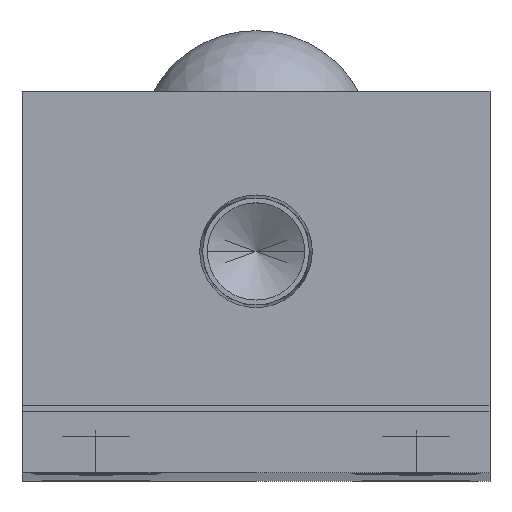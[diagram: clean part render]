
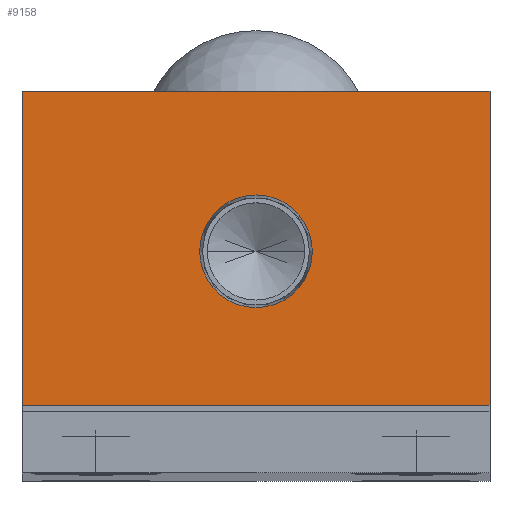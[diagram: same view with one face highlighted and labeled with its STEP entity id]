
A CAD part, top view. The second image highlights one B-rep face of the part: STEP entity #9158.
In plain terms, the highlighted planar face has unit normal (0, 0, 1).
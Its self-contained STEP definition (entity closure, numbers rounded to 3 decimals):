
#215 = DIRECTION ( 'NONE',  ( 1., 0., 0. ) ) ;
#546 = AXIS2_PLACEMENT_3D ( 'NONE', #10491, #5330, #215 ) ;
#782 = LINE ( 'NONE', #2322, #4780 ) ;
#796 = ORIENTED_EDGE ( 'NONE', *, *, #2638, .F. ) ;
#935 = VERTEX_POINT ( 'NONE', #7694 ) ;
#1225 = LINE ( 'NONE', #10427, #3520 ) ;
#1341 = ORIENTED_EDGE ( 'NONE', *, *, #5292, .T. ) ;
#1744 = ORIENTED_EDGE ( 'NONE', *, *, #7580, .T. ) ;
#1791 = VERTEX_POINT ( 'NONE', #7621 ) ;
#1977 = LINE ( 'NONE', #10384, #4544 ) ;
#2322 = CARTESIAN_POINT ( 'NONE',  ( 19., 31., 0. ) ) ;
#2638 = EDGE_CURVE ( 'NONE', #7085, #6036, #5479, .T. ) ;
#2656 = CARTESIAN_POINT ( 'NONE',  ( 4.574, 18., 0. ) ) ;
#2736 = CARTESIAN_POINT ( 'NONE',  ( -4.574, 18., 0. ) ) ;
#2977 = DIRECTION ( 'NONE',  ( 0., 0., 1. ) ) ;
#3520 = VECTOR ( 'NONE', #7000, 1000. ) ;
#3721 = EDGE_LOOP ( 'NONE', ( #1341, #1744, #7442, #9957 ) ) ;
#3761 = EDGE_CURVE ( 'NONE', #1791, #4511, #782, .T. ) ;
#4070 = AXIS2_PLACEMENT_3D ( 'NONE', #8520, #5928, #4250 ) ;
#4216 = VECTOR ( 'NONE', #4271, 1000. ) ;
#4250 = DIRECTION ( 'NONE',  ( 1., 0., 0. ) ) ;
#4271 = DIRECTION ( 'NONE',  ( 1., 0., 0. ) ) ;
#4483 = ORIENTED_EDGE ( 'NONE', *, *, #9822, .F. ) ;
#4511 = VERTEX_POINT ( 'NONE', #6063 ) ;
#4544 = VECTOR ( 'NONE', #5233, 1000. ) ;
#4780 = VECTOR ( 'NONE', #8332, 1000. ) ;
#5233 = DIRECTION ( 'NONE',  ( 0., 1., 0. ) ) ;
#5292 = EDGE_CURVE ( 'NONE', #5609, #935, #11070, .T. ) ;
#5330 = DIRECTION ( 'NONE',  ( 0., 0., 1. ) ) ;
#5479 = CIRCLE ( 'NONE', #6307, 4.574 ) ;
#5609 = VERTEX_POINT ( 'NONE', #10751 ) ;
#5677 = FACE_OUTER_BOUND ( 'NONE', #3721, .T. ) ;
#5928 = DIRECTION ( 'NONE',  ( 0., 0., 1. ) ) ;
#5949 = FACE_BOUND ( 'NONE', #6697, .T. ) ;
#6036 = VERTEX_POINT ( 'NONE', #2736 ) ;
#6063 = CARTESIAN_POINT ( 'NONE',  ( -19., 31., 0. ) ) ;
#6307 = AXIS2_PLACEMENT_3D ( 'NONE', #8133, #2977, #8996 ) ;
#6697 = EDGE_LOOP ( 'NONE', ( #796, #4483 ) ) ;
#7000 = DIRECTION ( 'NONE',  ( 0., -1., 0. ) ) ;
#7085 = VERTEX_POINT ( 'NONE', #2656 ) ;
#7442 = ORIENTED_EDGE ( 'NONE', *, *, #3761, .T. ) ;
#7580 = EDGE_CURVE ( 'NONE', #935, #1791, #1977, .T. ) ;
#7621 = CARTESIAN_POINT ( 'NONE',  ( 19., 31., 0. ) ) ;
#7644 = PLANE ( 'NONE',  #4070 ) ;
#7694 = CARTESIAN_POINT ( 'NONE',  ( 19., 5.5, 0. ) ) ;
#7807 = CIRCLE ( 'NONE', #546, 4.574 ) ;
#8133 = CARTESIAN_POINT ( 'NONE',  ( 0., 18., 0. ) ) ;
#8332 = DIRECTION ( 'NONE',  ( -1., 0., 0. ) ) ;
#8520 = CARTESIAN_POINT ( 'NONE',  ( 0., 0., 0. ) ) ;
#8996 = DIRECTION ( 'NONE',  ( 1., 0., 0. ) ) ;
#9158 = ADVANCED_FACE ( 'NONE', ( #5949, #5677 ), #7644, .T. ) ;
#9822 = EDGE_CURVE ( 'NONE', #6036, #7085, #7807, .T. ) ;
#9957 = ORIENTED_EDGE ( 'NONE', *, *, #10298, .T. ) ;
#10269 = CARTESIAN_POINT ( 'NONE',  ( 19., 5.5, 0. ) ) ;
#10298 = EDGE_CURVE ( 'NONE', #4511, #5609, #1225, .T. ) ;
#10384 = CARTESIAN_POINT ( 'NONE',  ( 19., 5.5, 0. ) ) ;
#10427 = CARTESIAN_POINT ( 'NONE',  ( -19., 31., 0. ) ) ;
#10491 = CARTESIAN_POINT ( 'NONE',  ( 0., 18., 0. ) ) ;
#10751 = CARTESIAN_POINT ( 'NONE',  ( -19., 5.5, 0. ) ) ;
#11070 = LINE ( 'NONE', #10269, #4216 ) ;
